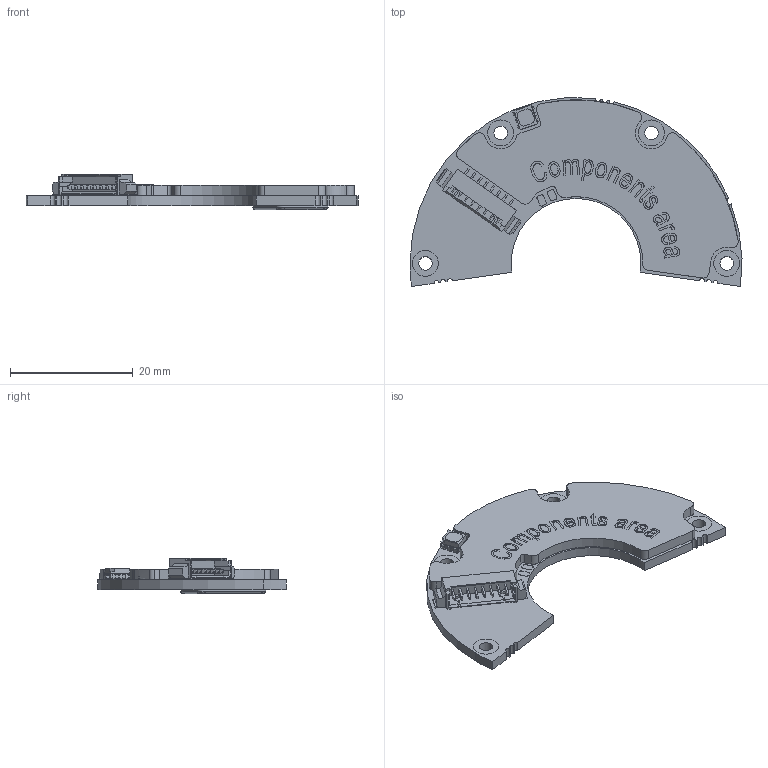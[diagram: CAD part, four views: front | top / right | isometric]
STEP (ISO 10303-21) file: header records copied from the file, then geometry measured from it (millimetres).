
FILE_DESCRIPTION (( 'STEP AP214' ), '1' );
FILE_NAME ('MB039xxxxxxENx00.STEP', '2024-04-18T09:24:27', ( '' ), ( '' ), 'SwSTEP 2.0', 'SolidWorks 2022', '' );
FILE_SCHEMA (( 'AUTOMOTIVE_DESIGN' ));
Length unit declared in the file: millimetre
Products named in the file (1): MB039xxxxxxENx00
Bounding box: 53.99 x 30.72 x 5.7 mm (x, y, z)
Volume: 2925 mm3; surface area: 3230.4 mm2
Topology: 3 solids, 3 shells, 726 faces, 2028 edges, 1332 vertices
Faces by surface type: plane 464, bspline 139, cylinder 123
Entity records: 37552 total; most frequent: CARTESIAN_POINT 11519, ORIENTED_EDGE 4056, DIRECTION 3181, EDGE_CURVE 2028, VECTOR 1493, LINE 1493, VERTEX_POINT 1332, AXIS2_PLACEMENT_3D 844
